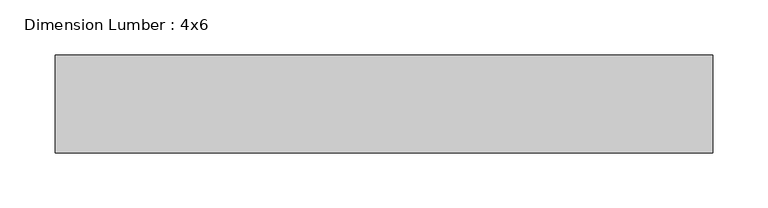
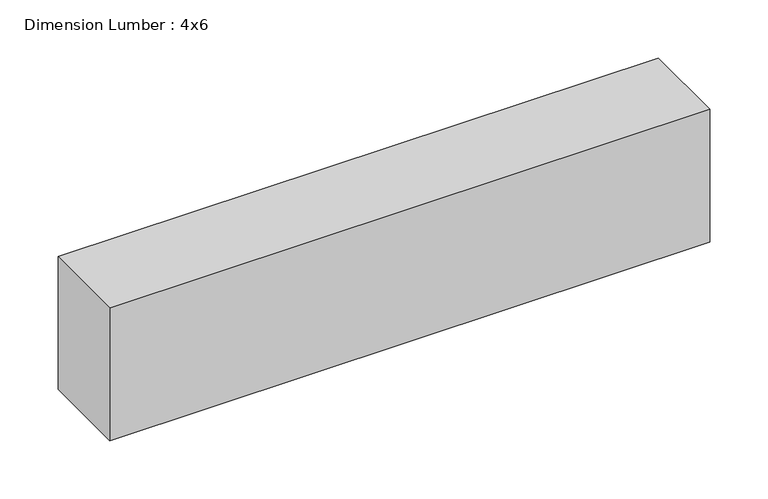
"""IFC4 building model written with IfcOpenShell, lengths in millimetres: beam geometry, Dimension Lumber : 4x6."""

from ifc_helpers import new_model, si_unit, frame, origin, place, context, project, spatial, polyline, outline, extrude, source, transform, mapped, element, save


def dimension_lumber_4x6_90920ef4(model_context):
    return source(origin(), model_context, "Body", "SweptSolid", [
        extrude(outline(polyline([(298.45, 44.45), (298.45, -44.45), (-298.45, -44.45), (-298.45, 44.45), (298.45, 44.45)])), frame((0.0, 0.0, -69.85), z_axis=(0.0, 0.0, 1.0), x_axis=(1.0, 0.0, 0.0)), (0.0, 0.0, 1.0), 139.7),
    ])


if __name__ == "__main__":
    model = new_model("IFC4")
    model_context = context("Model", 3, world=origin())
    ifc_project = project(units=[si_unit("LENGTHUNIT", "METRE", prefix="MILLI")], contexts=[model_context])
    site = spatial("IfcSite", under=ifc_project)
    building = spatial("IfcBuilding", under=site)
    placement = place(None, origin())
    dimension_lumber_4x6_shape = dimension_lumber_4x6_90920ef4(model_context)
    element("IfcBeam", 1, ObjectType="Dimension Lumber : 4x6", at=placement, inside=building, context=model_context, shape_type="MappedRepresentation", body=[
        mapped(dimension_lumber_4x6_shape, transform((0.0, 0.0, 0.0), x_axis=(1.0, 0.0, 0.0), y_axis=(0.0, 1.0, 0.0), z_axis=(0.0, 0.0, 1.0))),
    ])
    save(model, "model.ifc")
